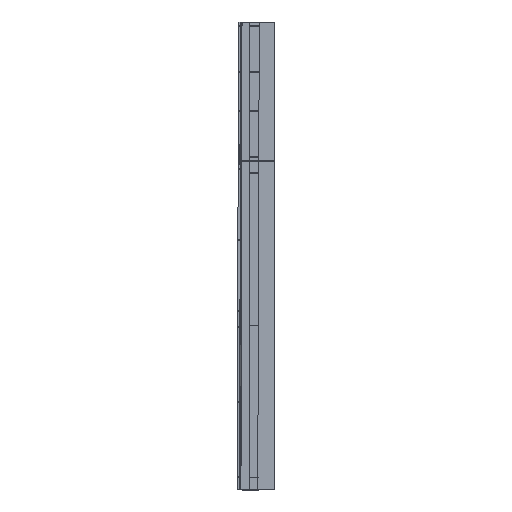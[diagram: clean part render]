
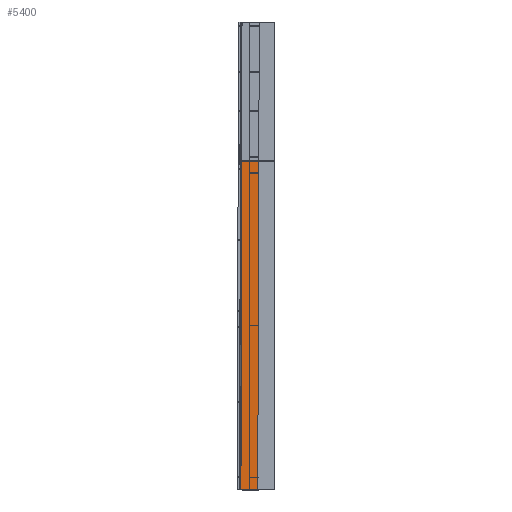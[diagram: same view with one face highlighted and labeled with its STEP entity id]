
A CAD part, top view. The second image highlights one B-rep face of the part: STEP entity #5400.
In plain terms, the highlighted planar face has unit normal (0, 0, 1).
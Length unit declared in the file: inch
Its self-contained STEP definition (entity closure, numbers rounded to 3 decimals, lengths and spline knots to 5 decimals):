
#111 = DIRECTION ( 'NONE',  ( 1., 0., 0. ) ) ;
#117 = DIRECTION ( 'NONE',  ( 0., 0., -1. ) ) ;
#126 = CARTESIAN_POINT ( 'NONE',  ( 2.22323, 80.8515, 0.038 ) ) ;
#148 = VECTOR ( 'NONE', #261, 39.37008 ) ;
#152 = ORIENTED_EDGE ( 'NONE', *, *, #1713, .T. ) ;
#235 = CARTESIAN_POINT ( 'NONE',  ( 0.07146, 83.8515, 0.038 ) ) ;
#261 = DIRECTION ( 'NONE',  ( -1., 0., 0. ) ) ;
#263 = FACE_BOUND ( 'NONE', #6765, .T. ) ;
#407 = ORIENTED_EDGE ( 'NONE', *, *, #4101, .T. ) ;
#504 = LINE ( 'NONE', #3337, #148 ) ;
#512 = ORIENTED_EDGE ( 'NONE', *, *, #1978, .T. ) ;
#529 = AXIS2_PLACEMENT_3D ( 'NONE', #1694, #1693, #1690 ) ;
#610 = AXIS2_PLACEMENT_3D ( 'NONE', #6301, #6360, #6418 ) ;
#618 = AXIS2_PLACEMENT_3D ( 'NONE', #6090, #6117, #6152 ) ;
#621 = AXIS2_PLACEMENT_3D ( 'NONE', #5776, #5822, #5852 ) ;
#737 = AXIS2_PLACEMENT_3D ( 'NONE', #6075, #6177, #6761 ) ;
#887 = CIRCLE ( 'NONE', #529, 0.09375 ) ;
#1001 = CIRCLE ( 'NONE', #610, 0.09375 ) ;
#1086 = VERTEX_POINT ( 'NONE', #4695 ) ;
#1092 = VERTEX_POINT ( 'NONE', #4697 ) ;
#1192 = VERTEX_POINT ( 'NONE', #5027 ) ;
#1193 = CARTESIAN_POINT ( 'NONE',  ( 2.12948, 41.92575, 0.038 ) ) ;
#1269 = VECTOR ( 'NONE', #2794, 39.37008 ) ;
#1270 = VERTEX_POINT ( 'NONE', #5126 ) ;
#1275 = LINE ( 'NONE', #6255, #3158 ) ;
#1335 = ORIENTED_EDGE ( 'NONE', *, *, #1770, .F. ) ;
#1358 = VERTEX_POINT ( 'NONE', #5246 ) ;
#1390 = VERTEX_POINT ( 'NONE', #5309 ) ;
#1420 = EDGE_LOOP ( 'NONE', ( #152, #6369 ) ) ;
#1609 = CARTESIAN_POINT ( 'NONE',  ( 0., 0., 0.038 ) ) ;
#1619 = DIRECTION ( 'NONE',  ( -1., 0., 0. ) ) ;
#1690 = DIRECTION ( 'NONE',  ( 1., 0., 0. ) ) ;
#1693 = DIRECTION ( 'NONE',  ( 0., 0., -1. ) ) ;
#1694 = CARTESIAN_POINT ( 'NONE',  ( 2.22323, 3., 0.038 ) ) ;
#1695 = EDGE_CURVE ( 'NONE', #1270, #1358, #2505, .T. ) ;
#1713 = EDGE_CURVE ( 'NONE', #1192, #3818, #2102, .T. ) ;
#1770 = EDGE_CURVE ( 'NONE', #4853, #1086, #6234, .T. ) ;
#1775 = LINE ( 'NONE', #235, #6155 ) ;
#1804 = CIRCLE ( 'NONE', #2067, 0.09375 ) ;
#1811 = DIRECTION ( 'NONE',  ( 0., 1., 0. ) ) ;
#1819 = EDGE_LOOP ( 'NONE', ( #407, #3114 ) ) ;
#1895 = EDGE_CURVE ( 'NONE', #4816, #1390, #1275, .T. ) ;
#1972 = EDGE_CURVE ( 'NONE', #1086, #4816, #504, .T. ) ;
#1978 = EDGE_CURVE ( 'NONE', #4853, #1358, #6383, .T. ) ;
#1979 = EDGE_CURVE ( 'NONE', #1270, #1390, #1775, .T. ) ;
#1994 = EDGE_CURVE ( 'NONE', #2870, #6565, #2277, .T. ) ;
#1996 = EDGE_CURVE ( 'NONE', #1092, #1997, #5678, .T. ) ;
#1997 = VERTEX_POINT ( 'NONE', #5899 ) ;
#2003 = EDGE_CURVE ( 'NONE', #3818, #1192, #1001, .T. ) ;
#2067 = AXIS2_PLACEMENT_3D ( 'NONE', #126, #117, #111 ) ;
#2102 = CIRCLE ( 'NONE', #737, 0.09375 ) ;
#2150 = FACE_BOUND ( 'NONE', #1420, .T. ) ;
#2277 = CIRCLE ( 'NONE', #621, 0.09375 ) ;
#2505 = LINE ( 'NONE', #5799, #4368 ) ;
#2794 = DIRECTION ( 'NONE',  ( 0., 1., 0. ) ) ;
#2870 = VERTEX_POINT ( 'NONE', #4644 ) ;
#3114 = ORIENTED_EDGE ( 'NONE', *, *, #1994, .T. ) ;
#3158 = VECTOR ( 'NONE', #1811, 39.37008 ) ;
#3337 = CARTESIAN_POINT ( 'NONE',  ( 0.07146, 0., 0.038 ) ) ;
#3672 = EDGE_CURVE ( 'NONE', #1997, #1092, #887, .T. ) ;
#3723 = DIRECTION ( 'NONE',  ( -1., 0., 0. ) ) ;
#3793 = ORIENTED_EDGE ( 'NONE', *, *, #1996, .T. ) ;
#3818 = VERTEX_POINT ( 'NONE', #1193 ) ;
#3852 = DIRECTION ( 'NONE',  ( 0., 0., -1. ) ) ;
#4004 = CARTESIAN_POINT ( 'NONE',  ( 0., 83.8515, 0.038 ) ) ;
#4011 = PLANE ( 'NONE',  #4185 ) ;
#4070 = ORIENTED_EDGE ( 'NONE', *, *, #1979, .T. ) ;
#4101 = EDGE_CURVE ( 'NONE', #6565, #2870, #1804, .T. ) ;
#4185 = AXIS2_PLACEMENT_3D ( 'NONE', #4004, #3852, #3723 ) ;
#4368 = VECTOR ( 'NONE', #5785, 39.37008 ) ;
#4644 = CARTESIAN_POINT ( 'NONE',  ( 2.12948, 80.8515, 0.038 ) ) ;
#4695 = CARTESIAN_POINT ( 'NONE',  ( 0.19646, 0., 0.038 ) ) ;
#4697 = CARTESIAN_POINT ( 'NONE',  ( 2.12948, 3., 0.038 ) ) ;
#4807 = CARTESIAN_POINT ( 'NONE',  ( 2.31698, 80.8515, 0.038 ) ) ;
#4816 = VERTEX_POINT ( 'NONE', #6484 ) ;
#4853 = VERTEX_POINT ( 'NONE', #6669 ) ;
#4904 = ORIENTED_EDGE ( 'NONE', *, *, #3672, .T. ) ;
#5027 = CARTESIAN_POINT ( 'NONE',  ( 2.31698, 41.92575, 0.038 ) ) ;
#5048 = EDGE_LOOP ( 'NONE', ( #5729, #1335, #512, #5592, #4070, #6486 ) ) ;
#5126 = CARTESIAN_POINT ( 'NONE',  ( 0.19646, 83.8515, 0.038 ) ) ;
#5246 = CARTESIAN_POINT ( 'NONE',  ( 4.375, 83.8515, 0.038 ) ) ;
#5309 = CARTESIAN_POINT ( 'NONE',  ( 0.07146, 83.8515, 0.038 ) ) ;
#5400 = ADVANCED_FACE ( 'NONE', ( #5527, #6434, #263, #2150 ), #4011, .F. ) ;
#5500 = VECTOR ( 'NONE', #1619, 39.37008 ) ;
#5527 = FACE_OUTER_BOUND ( 'NONE', #5048, .T. ) ;
#5592 = ORIENTED_EDGE ( 'NONE', *, *, #1695, .F. ) ;
#5631 = CARTESIAN_POINT ( 'NONE',  ( 4.375, 0., 0.038 ) ) ;
#5678 = CIRCLE ( 'NONE', #618, 0.09375 ) ;
#5729 = ORIENTED_EDGE ( 'NONE', *, *, #1972, .F. ) ;
#5776 = CARTESIAN_POINT ( 'NONE',  ( 2.22323, 80.8515, 0.038 ) ) ;
#5785 = DIRECTION ( 'NONE',  ( 1., 0., 0. ) ) ;
#5799 = CARTESIAN_POINT ( 'NONE',  ( 0., 83.8515, 0.038 ) ) ;
#5822 = DIRECTION ( 'NONE',  ( 0., 0., -1. ) ) ;
#5852 = DIRECTION ( 'NONE',  ( 1., 0., 0. ) ) ;
#5899 = CARTESIAN_POINT ( 'NONE',  ( 2.31698, 3., 0.038 ) ) ;
#6075 = CARTESIAN_POINT ( 'NONE',  ( 2.22323, 41.92575, 0.038 ) ) ;
#6090 = CARTESIAN_POINT ( 'NONE',  ( 2.22323, 3., 0.038 ) ) ;
#6117 = DIRECTION ( 'NONE',  ( 0., 0., -1. ) ) ;
#6118 = DIRECTION ( 'NONE',  ( -1., 0., 0. ) ) ;
#6152 = DIRECTION ( 'NONE',  ( 1., 0., 0. ) ) ;
#6155 = VECTOR ( 'NONE', #6118, 39.37008 ) ;
#6177 = DIRECTION ( 'NONE',  ( 0., 0., -1. ) ) ;
#6234 = LINE ( 'NONE', #1609, #5500 ) ;
#6255 = CARTESIAN_POINT ( 'NONE',  ( 0.07146, 83.8515, 0.038 ) ) ;
#6301 = CARTESIAN_POINT ( 'NONE',  ( 2.22323, 41.92575, 0.038 ) ) ;
#6360 = DIRECTION ( 'NONE',  ( 0., 0., -1. ) ) ;
#6369 = ORIENTED_EDGE ( 'NONE', *, *, #2003, .T. ) ;
#6383 = LINE ( 'NONE', #5631, #1269 ) ;
#6418 = DIRECTION ( 'NONE',  ( 1., 0., 0. ) ) ;
#6434 = FACE_BOUND ( 'NONE', #1819, .T. ) ;
#6484 = CARTESIAN_POINT ( 'NONE',  ( 0.07146, 0., 0.038 ) ) ;
#6486 = ORIENTED_EDGE ( 'NONE', *, *, #1895, .F. ) ;
#6565 = VERTEX_POINT ( 'NONE', #4807 ) ;
#6669 = CARTESIAN_POINT ( 'NONE',  ( 4.375, 0., 0.038 ) ) ;
#6761 = DIRECTION ( 'NONE',  ( 1., 0., 0. ) ) ;
#6765 = EDGE_LOOP ( 'NONE', ( #4904, #3793 ) ) ;
